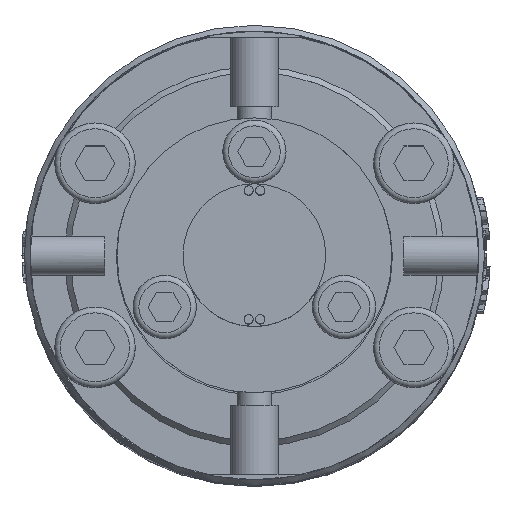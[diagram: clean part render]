
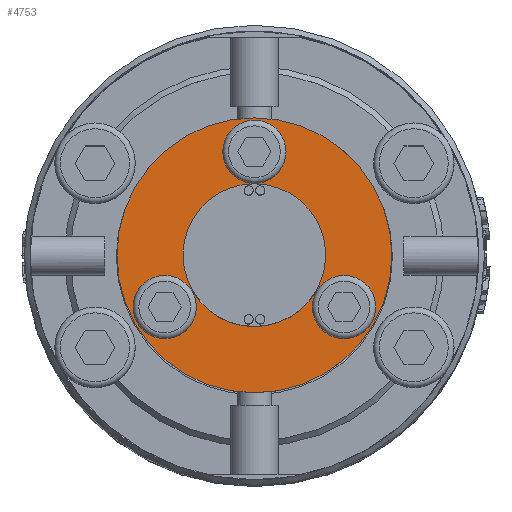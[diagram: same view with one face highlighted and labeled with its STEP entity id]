
A CAD part, top view. The second image highlights one B-rep face of the part: STEP entity #4753.
In plain terms, the highlighted planar face has unit normal (0, 0, 1).
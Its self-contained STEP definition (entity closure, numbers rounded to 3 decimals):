
#1221=PLANE('',#22198);
#1527=FACE_BOUND('',#7188,.T.);
#1528=FACE_BOUND('',#7189,.T.);
#1529=FACE_BOUND('',#7190,.T.);
#1530=FACE_BOUND('',#7191,.T.);
#1531=FACE_BOUND('',#7192,.T.);
#4753=ADVANCED_FACE('',(#1527,#1528,#1529,#1530,#1531),#1221,.T.);
#7188=EDGE_LOOP('',(#15760));
#7189=EDGE_LOOP('',(#15761));
#7190=EDGE_LOOP('',(#15762));
#7191=EDGE_LOOP('',(#15763));
#7192=EDGE_LOOP('',(#15764));
#15760=ORIENTED_EDGE('',*,*,#20810,.F.);
#15761=ORIENTED_EDGE('',*,*,#20824,.F.);
#15762=ORIENTED_EDGE('',*,*,#20845,.F.);
#15763=ORIENTED_EDGE('',*,*,#20965,.F.);
#15764=ORIENTED_EDGE('',*,*,#20964,.F.);
#17794=VERTEX_POINT('',#43787);
#17802=VERTEX_POINT('',#43818);
#17817=VERTEX_POINT('',#43864);
#17902=VERTEX_POINT('',#44130);
#17903=VERTEX_POINT('',#44133);
#20810=EDGE_CURVE('',#17794,#17794,#21173,.T.);
#20824=EDGE_CURVE('',#17802,#17802,#21175,.T.);
#20845=EDGE_CURVE('',#17817,#17817,#21178,.T.);
#20964=EDGE_CURVE('',#17902,#17902,#21207,.T.);
#20965=EDGE_CURVE('',#17903,#17903,#21208,.T.);
#21173=CIRCLE('',#22080,2.75);
#21175=CIRCLE('',#22091,2.75);
#21178=CIRCLE('',#22104,2.75);
#21207=CIRCLE('',#22195,11.95);
#21208=CIRCLE('',#22197,6.2);
#22080=AXIS2_PLACEMENT_3D('',#43786,#25000,#25001);
#22091=AXIS2_PLACEMENT_3D('',#43817,#25034,#25035);
#22104=AXIS2_PLACEMENT_3D('',#43863,#25078,#25079);
#22195=AXIS2_PLACEMENT_3D('',#44129,#25350,#25351);
#22197=AXIS2_PLACEMENT_3D('',#44132,#25354,#25355);
#22198=AXIS2_PLACEMENT_3D('',#44134,#25356,#25357);
#25000=DIRECTION('',(0.,0.,1.));
#25001=DIRECTION('',(1.,0.,0.));
#25034=DIRECTION('',(0.,0.,1.));
#25035=DIRECTION('',(-0.5,0.866,0.));
#25078=DIRECTION('',(0.,0.,1.));
#25079=DIRECTION('',(-0.5,-0.866,0.));
#25350=DIRECTION('',(0.,0.,-1.));
#25351=DIRECTION('',(0.,1.,0.));
#25354=DIRECTION('',(0.,0.,1.));
#25355=DIRECTION('',(0.,1.,0.));
#25356=DIRECTION('',(0.,0.,1.));
#25357=DIRECTION('',(0.,1.,0.));
#43786=CARTESIAN_POINT('',(0.,9.,79.5));
#43787=CARTESIAN_POINT('',(2.75,9.,79.5));
#43817=CARTESIAN_POINT('',(-7.794,-4.5,79.5));
#43818=CARTESIAN_POINT('',(-9.169,-2.118,79.5));
#43863=CARTESIAN_POINT('',(7.794,-4.5,79.5));
#43864=CARTESIAN_POINT('',(6.419,-6.882,79.5));
#44129=CARTESIAN_POINT('',(0.,0.,79.5));
#44130=CARTESIAN_POINT('',(0.,11.95,79.5));
#44132=CARTESIAN_POINT('',(0.,0.,79.5));
#44133=CARTESIAN_POINT('',(0.,6.2,79.5));
#44134=CARTESIAN_POINT('',(0.,0.,79.5));
